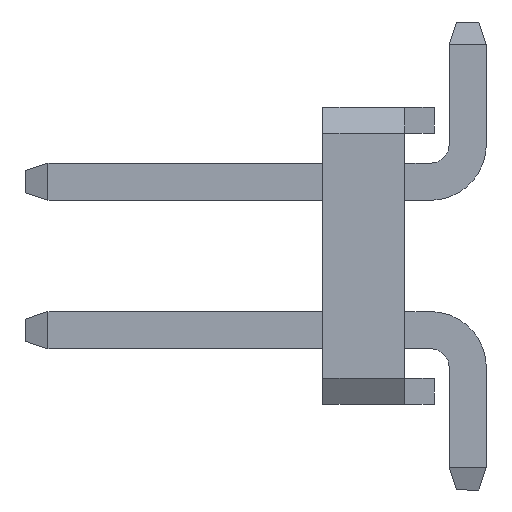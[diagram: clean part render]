
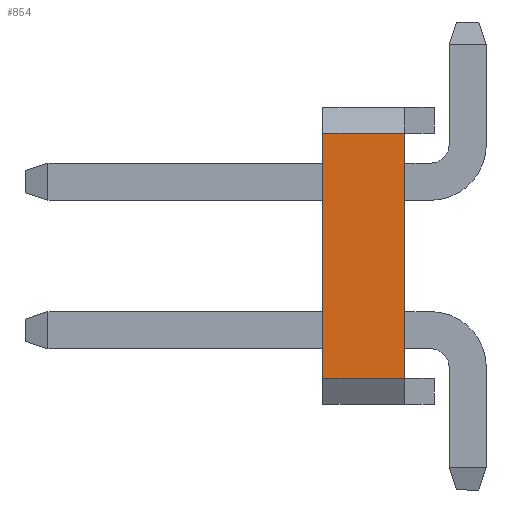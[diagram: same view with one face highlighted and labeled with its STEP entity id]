
A CAD part, left-side view. The second image highlights one B-rep face of the part: STEP entity #854.
In plain terms, the highlighted planar face has unit normal (-1, 0, 0).
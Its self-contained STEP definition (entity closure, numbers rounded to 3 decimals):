
#75 = VERTEX_POINT ( 'NONE', #1281 ) ;
#475 = EDGE_CURVE ( 'NONE', #5025, #5017, #1601, .T. ) ;
#854 = ADVANCED_FACE ( 'NONE', ( #3473 ), #3468, .F. ) ;
#972 = VECTOR ( 'NONE', #2563, 1000. ) ;
#992 = VECTOR ( 'NONE', #2557, 1000. ) ;
#995 = VECTOR ( 'NONE', #2565, 1000. ) ;
#1070 = ORIENTED_EDGE ( 'NONE', *, *, #475, .F. ) ;
#1074 = ORIENTED_EDGE ( 'NONE', *, *, #4449, .F. ) ;
#1085 = ORIENTED_EDGE ( 'NONE', *, *, #4452, .T. ) ;
#1151 = ORIENTED_EDGE ( 'NONE', *, *, #4451, .T. ) ;
#1281 = CARTESIAN_POINT ( 'NONE',  ( -15.75, 1.65, 1.1 ) ) ;
#1601 = LINE ( 'NONE', #1603, #4873 ) ;
#1603 = CARTESIAN_POINT ( 'NONE',  ( -15.75, -2., 0. ) ) ;
#1604 = DIRECTION ( 'NONE',  ( 0., 1., 0. ) ) ;
#2133 = CARTESIAN_POINT ( 'NONE',  ( -15.75, -1.65, 1.1 ) ) ;
#2541 = LINE ( 'NONE', #2555, #992 ) ;
#2552 = LINE ( 'NONE', #2564, #995 ) ;
#2555 = CARTESIAN_POINT ( 'NONE',  ( -15.75, -1.65, 0.55 ) ) ;
#2557 = DIRECTION ( 'NONE',  ( 0., 0., -1. ) ) ;
#2560 = LINE ( 'NONE', #2562, #972 ) ;
#2562 = CARTESIAN_POINT ( 'NONE',  ( -15.75, 1.65, 0.55 ) ) ;
#2563 = DIRECTION ( 'NONE',  ( 0., 0., -1. ) ) ;
#2564 = CARTESIAN_POINT ( 'NONE',  ( -15.75, -1.65, 1.1 ) ) ;
#2565 = DIRECTION ( 'NONE',  ( 0., 1., 0. ) ) ;
#3468 = PLANE ( 'NONE',  #4712 ) ;
#3473 = FACE_OUTER_BOUND ( 'NONE', #4217, .T. ) ;
#3483 = CARTESIAN_POINT ( 'NONE',  ( -15.75, -1.65, 1.1 ) ) ;
#3484 = DIRECTION ( 'NONE',  ( 1., 0., 0. ) ) ;
#3485 = DIRECTION ( 'NONE',  ( 0., 0., -1. ) ) ;
#3932 = CARTESIAN_POINT ( 'NONE',  ( -15.75, 1.65, 0. ) ) ;
#3938 = CARTESIAN_POINT ( 'NONE',  ( -15.75, -1.65, 0. ) ) ;
#4217 = EDGE_LOOP ( 'NONE', ( #1151, #1070, #1074, #1085 ) ) ;
#4337 = VERTEX_POINT ( 'NONE', #2133 ) ;
#4449 = EDGE_CURVE ( 'NONE', #4337, #5025, #2541, .T. ) ;
#4451 = EDGE_CURVE ( 'NONE', #75, #5017, #2560, .T. ) ;
#4452 = EDGE_CURVE ( 'NONE', #4337, #75, #2552, .T. ) ;
#4712 = AXIS2_PLACEMENT_3D ( 'NONE', #3483, #3484, #3485 ) ;
#4873 = VECTOR ( 'NONE', #1604, 1000. ) ;
#5017 = VERTEX_POINT ( 'NONE', #3932 ) ;
#5025 = VERTEX_POINT ( 'NONE', #3938 ) ;
